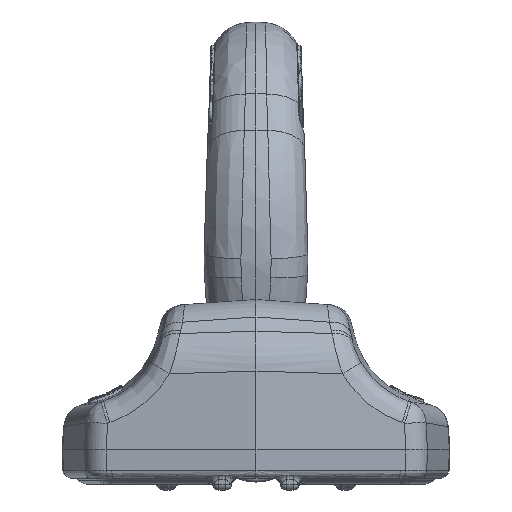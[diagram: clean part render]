
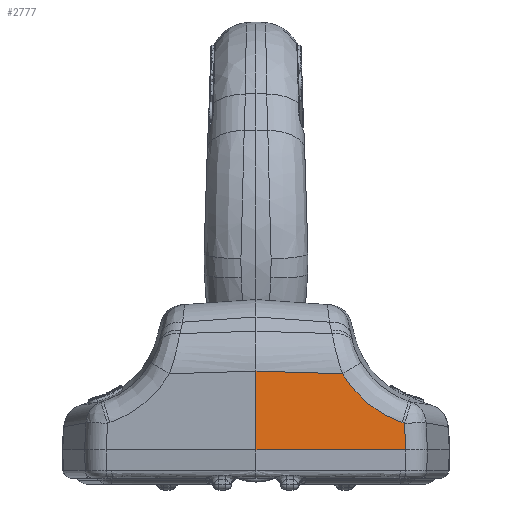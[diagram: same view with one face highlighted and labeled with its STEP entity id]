
A CAD part, left-side view. The second image highlights one B-rep face of the part: STEP entity #2777.
In plain terms, the highlighted planar face has unit normal (-0.997, -0.07, 0.035).
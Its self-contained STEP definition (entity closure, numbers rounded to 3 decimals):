
#2191=PLANE('',#32031);
#2777=ADVANCED_FACE('',(#5399),#2191,.T.);
#5399=FACE_OUTER_BOUND('',#7369,.T.);
#7369=EDGE_LOOP('',(#14783,#14784,#14785,#14786,#14787,#14788));
#9275=LINE('',#48575,#10710);
#9286=LINE('',#51915,#10721);
#10710=VECTOR('',#35097,1.);
#10721=VECTOR('',#35148,1.);
#12172=(
BOUNDED_CURVE()
B_SPLINE_CURVE(3,(#44791,#44792,#44793,#44794,#44795,#44796,#44797),.UNSPECIFIED.,
 .F.,.F.)
B_SPLINE_CURVE_WITH_KNOTS((4,1,1,1,4),(0.,0.536,0.75,
0.893,1.),.UNSPECIFIED.)
CURVE()
GEOMETRIC_REPRESENTATION_ITEM()
RATIONAL_B_SPLINE_CURVE((1.,1.,1.,1.,1.,1.,1.))
REPRESENTATION_ITEM('')
);
#12304=(
BOUNDED_CURVE()
B_SPLINE_CURVE(3,(#51917,#51918,#51919,#51920,#51921),.UNSPECIFIED.,.F.,
 .F.)
B_SPLINE_CURVE_WITH_KNOTS((4,1,4),(0.,0.883,1.),.UNSPECIFIED.)
CURVE()
GEOMETRIC_REPRESENTATION_ITEM()
RATIONAL_B_SPLINE_CURVE((1.,1.,1.,1.,1.))
REPRESENTATION_ITEM('')
);
#12835=B_SPLINE_CURVE_WITH_KNOTS('',3,(#42439,#42440,#42441,#42442),.UNSPECIFIED.,
 .F.,.F.,(4,4),(0.,1.),.UNSPECIFIED.);
#14783=ORIENTED_EDGE('',*,*,#26942,.T.);
#14784=ORIENTED_EDGE('',*,*,#26943,.F.);
#14785=ORIENTED_EDGE('',*,*,#26670,.F.);
#14786=ORIENTED_EDGE('',*,*,#26852,.T.);
#14787=ORIENTED_EDGE('',*,*,#26864,.T.);
#14788=ORIENTED_EDGE('',*,*,#26464,.T.);
#23570=VERTEX_POINT('',#42438);
#23571=VERTEX_POINT('',#42443);
#23718=VERTEX_POINT('',#44790);
#23719=VERTEX_POINT('',#44798);
#23814=VERTEX_POINT('',#48574);
#23861=VERTEX_POINT('',#51916);
#26464=EDGE_CURVE('',#23571,#23570,#12835,.T.);
#26670=EDGE_CURVE('',#23718,#23719,#12172,.T.);
#26852=EDGE_CURVE('',#23718,#23814,#9275,.T.);
#26864=EDGE_CURVE('',#23814,#23571,#31285,.T.);
#26942=EDGE_CURVE('',#23570,#23861,#9286,.T.);
#26943=EDGE_CURVE('',#23719,#23861,#12304,.T.);
#31285=ELLIPSE('',#32014,28.141,27.95);
#32014=AXIS2_PLACEMENT_3D('',#48985,#35104,#35105);
#32031=AXIS2_PLACEMENT_3D('',#51922,#35149,#35150);
#35097=DIRECTION('',(-0.055,0.945,0.323));
#35104=DIRECTION('',(0.997,0.07,-0.035));
#35105=DIRECTION('',(-0.078,0.845,-0.529));
#35148=DIRECTION('',(-0.035,0.,-0.999));
#35149=DIRECTION('',(-0.997,-0.07,0.035));
#35150=DIRECTION('',(0.07,-0.998,0.));
#42438=CARTESIAN_POINT('',(-97.112,-49.5,15.967));
#42439=CARTESIAN_POINT('',(-95.605,-71.291,15.319));
#42440=CARTESIAN_POINT('',(-96.107,-64.027,15.535));
#42441=CARTESIAN_POINT('',(-96.61,-56.764,15.751));
#42442=CARTESIAN_POINT('',(-97.112,-49.5,15.967));
#42443=CARTESIAN_POINT('',(-95.605,-71.291,15.319));
#44790=CARTESIAN_POINT('',(-94.944,-86.946,2.83));
#44791=CARTESIAN_POINT('',(-94.209,-85.86,26.));
#44792=CARTESIAN_POINT('',(-94.406,-86.152,19.774));
#44793=CARTESIAN_POINT('',(-94.683,-86.56,11.058));
#44794=CARTESIAN_POINT('',(-95.012,-87.046,0.68));
#44795=CARTESIAN_POINT('',(-95.183,-87.299,-4.719));
#44796=CARTESIAN_POINT('',(-95.275,-87.435,-7.629));
#44797=CARTESIAN_POINT('',(-95.315,-87.494,-8.877));
#44798=CARTESIAN_POINT('',(-95.157,-87.261,-3.896));
#48574=CARTESIAN_POINT('',(-94.98,-86.312,3.047));
#48575=CARTESIAN_POINT('',(-94.833,-88.837,2.183));
#48985=CARTESIAN_POINT('',(-93.41,-95.484,29.525));
#51915=CARTESIAN_POINT('',(-97.72,-49.5,-1.404));
#51916=CARTESIAN_POINT('',(-97.807,-49.5,-3.896));
#51917=CARTESIAN_POINT('',(-95.157,-87.261,-3.896));
#51918=CARTESIAN_POINT('',(-96.04,-74.678,-3.896));
#51919=CARTESIAN_POINT('',(-97.04,-60.432,-3.896));
#51920=CARTESIAN_POINT('',(-98.04,-46.187,-3.896));
#51921=CARTESIAN_POINT('',(-98.157,-44.524,-3.896));
#51922=CARTESIAN_POINT('',(-95.157,-87.262,-3.896));
